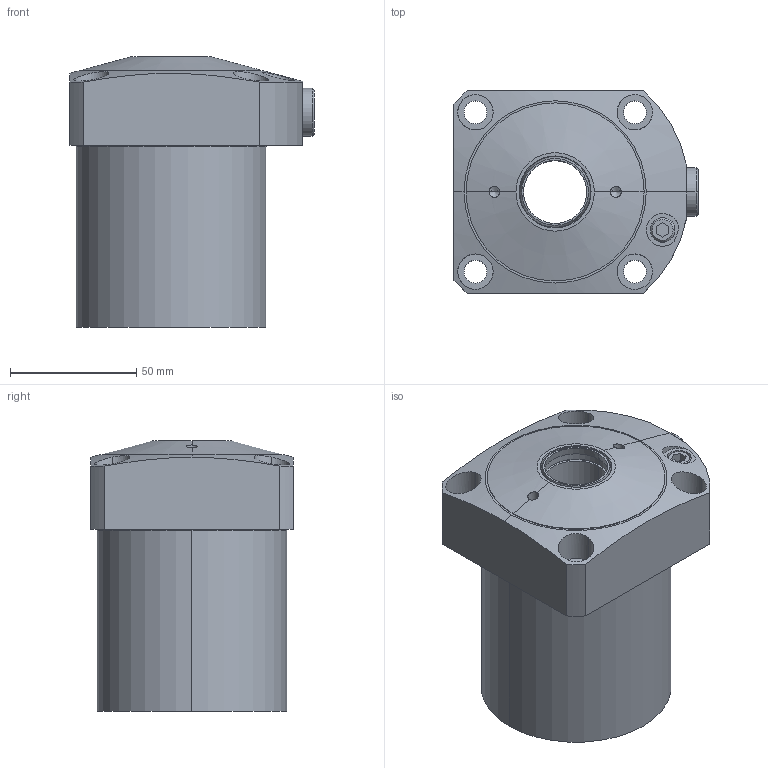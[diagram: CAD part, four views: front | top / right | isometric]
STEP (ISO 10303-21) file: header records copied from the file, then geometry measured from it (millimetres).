
FILE_DESCRIPTION(/* description */ (''),/* implementation_level */ '2;1');
FILE_NAME(/* name */ 'KFSS75-C.stp',/* time_stamp */ '2022-11-17T07:56:37+08:00',/* author */ (''),/* organization */ (''),/* preprocessor_version */ 'ST-DEVELOPER v16.7',/* originating_system */ 'SIEMENS PLM Software NX 12.0',/* authorisation */ '');
FILE_SCHEMA (('AP203_CONFIGURATION_CONTROLLED_3D_DESIGN_OF_MECHANICAL_PARTS_AND_ASSEMBLIES_MIM_LF { 1 0 10303 403 2 1 2}'));
Length unit declared in the file: millimetre
Products named in the file (4): KFSS75-C-02; KFSS75-C-01; KFSS75-C-03; LC0752-Cx-D_step
Assembly tree (3 placements, depth 2):
  LC0752-Cx-D_step
    KFSS75-C-03
    KFSS75-C-01
    KFSS75-C-02
Bounding box: 96.5 x 80 x 107 mm (x, y, z)
Volume: 463882.8 mm3; surface area: 53960.9 mm2
Topology: 3 solids, 3 shells, 153 faces, 332 edges, 200 vertices
Faces by surface type: cylinder 52, cone 44, plane 41, torus 16
Entity records: 4794 total; most frequent: CARTESIAN_POINT 915, DIRECTION 789, ORIENTED_EDGE 656, EDGE_CURVE 328, AXIS2_PLACEMENT_3D 324, VERTEX_POINT 200, EDGE_LOOP 182, CIRCLE 167
